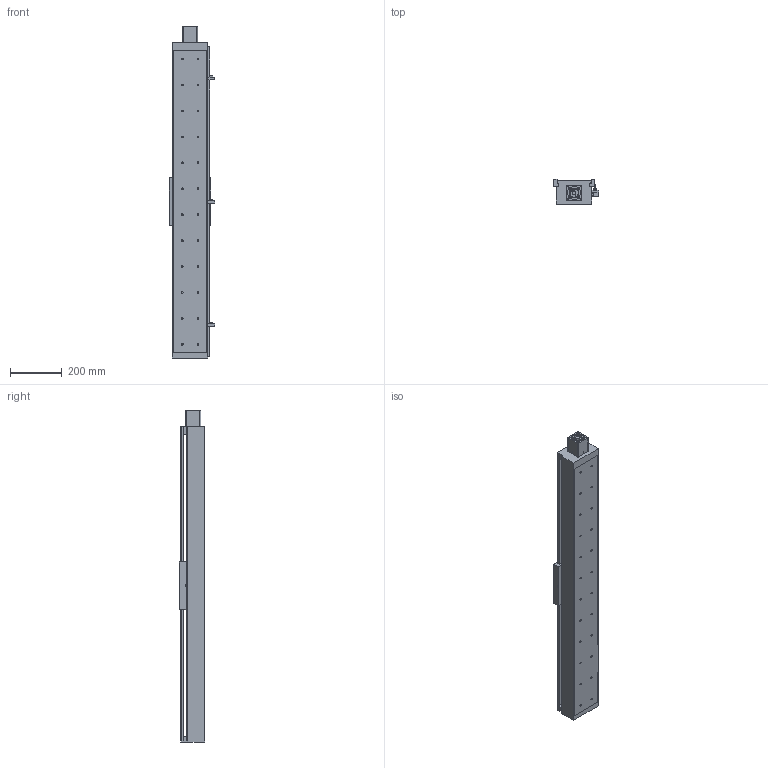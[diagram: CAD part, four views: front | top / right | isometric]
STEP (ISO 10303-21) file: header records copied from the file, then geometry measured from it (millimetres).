
FILE_DESCRIPTION((''),'2;1');
FILE_NAME('E:\libraries\UIA actuator library 2009\standard actuator\UIA136 ball screw 20\UIA136R15NDC stp file 27Apr16\UIA136R15NDC-950-R20_ _-M60-P13-C10-S.stp','2016-04-27T14:07:56',('h029'),(''),'Autodesk Inventor 11','Autodesk Inventor 11','');
FILE_SCHEMA(('AUTOMOTIVE_DESIGN { 1 0 10303 214 1 1 1 1 }'));
Length unit declared in the file: millimetre
Products named in the file (10): UIA136R15NDC-950; UIA136R15NDC-body; motor mount F60; SOH-32C; SOH-32C-3; SOH-32C-1; SOH-32C-2; Carriage; Sensor Switch; sensor rail
Assembly tree (9 placements, depth 3):
  UIA136R15NDC-950
    UIA136R15NDC-body
    motor mount F60
    SOH-32C
      SOH-32C-3
      SOH-32C-1
      SOH-32C-2
    Carriage
    Sensor Switch
    sensor rail
Bounding box: 174.5 x 98 x 1280 mm (x, y, z)
Volume: 4764185.9 mm3; surface area: 1326891.4 mm2
Topology: 8 solids, 8 shells, 519 faces, 1353 edges, 889 vertices
Faces by surface type: plane 313, bspline 162, cylinder 40, cone 4
Full cylindrical faces by diameter (mm): 2.459 x2, 3.242 x2, 4.5 x2, 5.5 x3, 7.5 x2, 10 x2, 12 x1, 14 x1, 32 x3, 37 x1, 41.9 x1, 42.1 x1, 43.5 x1
Entity records: 17051 total; most frequent: CARTESIAN_POINT 5162, ORIENTED_EDGE 2282, DIRECTION 2218, EDGE_CURVE 1141, VERTEX_POINT 824, EDGE_LOOP 805, VECTOR 798, LINE 798
